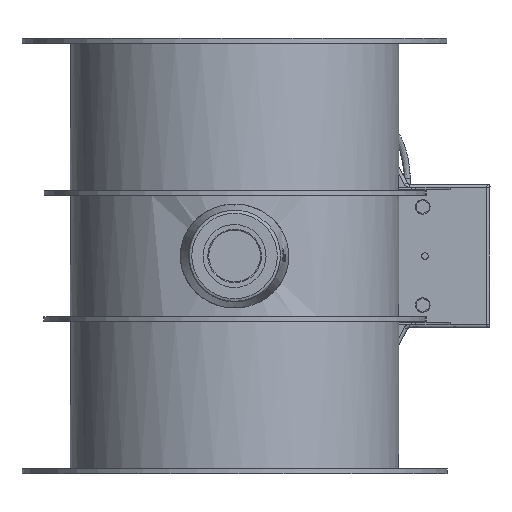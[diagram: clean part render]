
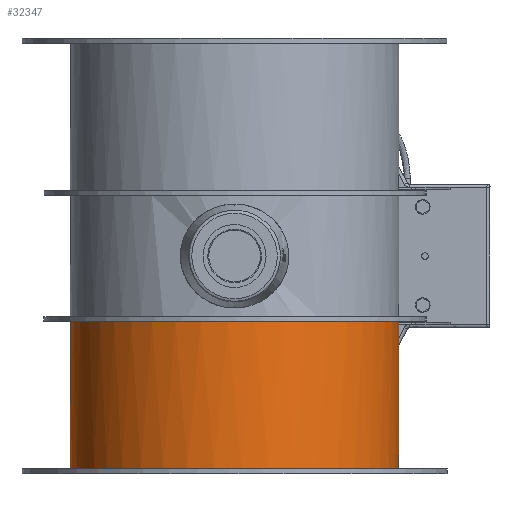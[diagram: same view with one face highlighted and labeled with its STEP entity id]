
A CAD part, left-side view. The second image highlights one B-rep face of the part: STEP entity #32347.
In plain terms, the highlighted free-form (B-spline) face has degree [2, 1] with [7, 2] control points.
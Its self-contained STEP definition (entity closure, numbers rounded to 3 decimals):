
#31653=CARTESIAN_POINT('',(101.9,0.,-132.));
#31654=VERTEX_POINT('',#31653);
#31655=CARTESIAN_POINT('',(101.9,0.,-132.));
#31656=CARTESIAN_POINT('',(101.9,-176.496,-132.));
#31657=CARTESIAN_POINT('',(-50.95,-88.248,-132.));
#31658=CARTESIAN_POINT('',(-203.8,0.,-132.));
#31659=CARTESIAN_POINT('',(-50.95,88.248,-132.));
#31660=CARTESIAN_POINT('',(101.9,176.496,-132.));
#31661=CARTESIAN_POINT('',(101.9,0.,-132.));
#31662=(BOUNDED_CURVE()B_SPLINE_CURVE(2,(#31655,#31656,#31657,#31658,#31659,#31660,#31661),.CIRCULAR_ARC.,.T.,.U.)B_SPLINE_CURVE_WITH_KNOTS((3,2,2,3),(0.,0.333,0.667,1.),.UNSPECIFIED.)CURVE()GEOMETRIC_REPRESENTATION_ITEM()RATIONAL_B_SPLINE_CURVE((1.,0.5,1.,0.5,1.,0.5,1.))REPRESENTATION_ITEM(''));
#31663=EDGE_CURVE('',#31654,#31654,#31662,.T.);
#32311=CARTESIAN_POINT('',(101.9,0.,-132.));
#32312=CARTESIAN_POINT('',(101.9,0.,132.));
#32313=CARTESIAN_POINT('',(101.9,176.496,-132.));
#32314=CARTESIAN_POINT('',(101.9,176.496,132.));
#32315=CARTESIAN_POINT('',(-50.95,88.248,-132.));
#32316=CARTESIAN_POINT('',(-50.95,88.248,132.));
#32317=CARTESIAN_POINT('',(-203.8,0.,-132.));
#32318=CARTESIAN_POINT('',(-203.8,0.,132.));
#32319=CARTESIAN_POINT('',(-50.95,-88.248,-132.));
#32320=CARTESIAN_POINT('',(-50.95,-88.248,132.));
#32321=CARTESIAN_POINT('',(101.9,-176.496,-132.));
#32322=CARTESIAN_POINT('',(101.9,-176.496,132.));
#32323=CARTESIAN_POINT('',(101.9,0.,-132.));
#32324=CARTESIAN_POINT('',(101.9,0.,132.));
#32325=(BOUNDED_SURFACE()B_SPLINE_SURFACE(2,1,((#32311,#32312),(#32313,#32314),(#32315,#32316),(#32317,#32318),(#32319,#32320),(#32321,#32322),(#32323,#32324)),.CYLINDRICAL_SURF.,.T.,.F.,.U.)B_SPLINE_SURFACE_WITH_KNOTS((3,2,2,3),(2,2),(0.,0.333,0.667,1.),(0.011,0.989),.UNSPECIFIED.)GEOMETRIC_REPRESENTATION_ITEM()RATIONAL_B_SPLINE_SURFACE(((1.,1.),(0.5,0.5),(1.,1.),(0.5,0.5),(1.,1.),(0.5,0.5),(1.,1.)))REPRESENTATION_ITEM('')SURFACE());
#32326=ORIENTED_EDGE('',*,*,#31663,.F.);
#32327=CARTESIAN_POINT('',(101.9,0.,-40.5));
#32328=VERTEX_POINT('',#32327);
#32329=CARTESIAN_POINT('',(101.9,0.,-132.));
#32330=CARTESIAN_POINT('',(101.9,0.,-40.5));
#32331=B_SPLINE_CURVE_WITH_KNOTS('',1,(#32329,#32330),.POLYLINE_FORM.,.F.,.U.,(2,2),(0.011,0.35),.UNSPECIFIED.);
#32332=EDGE_CURVE('',#31654,#32328,#32331,.T.);
#32333=ORIENTED_EDGE('',*,*,#32332,.T.);
#32334=CARTESIAN_POINT('',(101.9,0.,-40.5));
#32335=CARTESIAN_POINT('',(101.9,176.496,-40.5));
#32336=CARTESIAN_POINT('',(-50.95,88.248,-40.5));
#32337=CARTESIAN_POINT('',(-203.8,0.,-40.5));
#32338=CARTESIAN_POINT('',(-50.95,-88.248,-40.5));
#32339=CARTESIAN_POINT('',(101.9,-176.496,-40.5));
#32340=CARTESIAN_POINT('',(101.9,0.,-40.5));
#32341=(BOUNDED_CURVE()B_SPLINE_CURVE(2,(#32334,#32335,#32336,#32337,#32338,#32339,#32340),.CIRCULAR_ARC.,.T.,.U.)B_SPLINE_CURVE_WITH_KNOTS((3,2,2,3),(0.,0.333,0.667,1.),.UNSPECIFIED.)CURVE()GEOMETRIC_REPRESENTATION_ITEM()RATIONAL_B_SPLINE_CURVE((1.,0.5,1.,0.5,1.,0.5,1.))REPRESENTATION_ITEM(''));
#32342=EDGE_CURVE('',#32328,#32328,#32341,.T.);
#32343=ORIENTED_EDGE('',*,*,#32342,.F.);
#32344=ORIENTED_EDGE('',*,*,#32332,.F.);
#32345=EDGE_LOOP('',(#32326,#32333,#32343,#32344));
#32346=FACE_OUTER_BOUND('',#32345,.T.);
#32347=ADVANCED_FACE('',(#32346),#32325,.T.);
